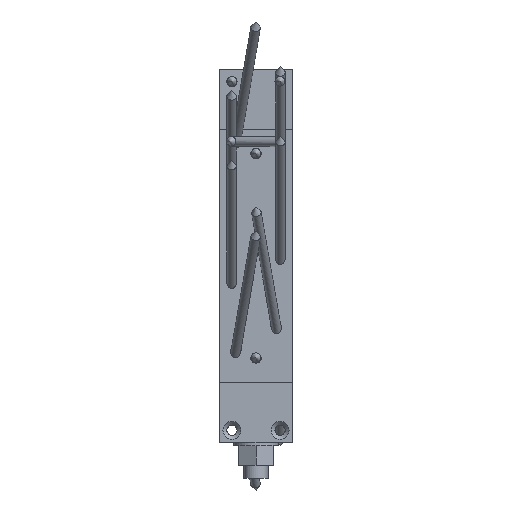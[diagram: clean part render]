
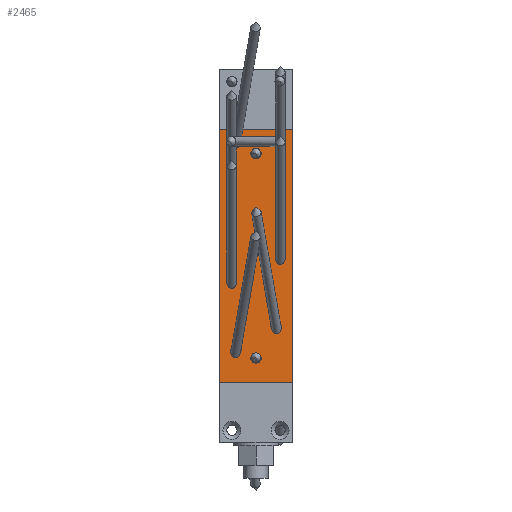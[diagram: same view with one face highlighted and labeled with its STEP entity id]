
A CAD part, top view. The second image highlights one B-rep face of the part: STEP entity #2465.
In plain terms, the highlighted planar face has unit normal (0, 0, 1) as drawn and (0, 0, -1) by its records, which use the part's own axes.
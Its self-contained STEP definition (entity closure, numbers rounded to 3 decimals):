
#232=CIRCLE('',#2915,4.25);
#233=CIRCLE('',#2916,4.25);
#351=LINE('',#4050,#563);
#353=LINE('',#4074,#565);
#354=LINE('',#4076,#566);
#355=LINE('',#4078,#567);
#563=VECTOR('',#3255,1000.);
#565=VECTOR('',#3279,1000.);
#566=VECTOR('',#3280,1000.);
#567=VECTOR('',#3281,1000.);
#801=ORIENTED_EDGE('',*,*,#1393,.F.);
#802=ORIENTED_EDGE('',*,*,#1394,.F.);
#803=ORIENTED_EDGE('',*,*,#1395,.F.);
#804=ORIENTED_EDGE('',*,*,#1396,.F.);
#805=ORIENTED_EDGE('',*,*,#1397,.F.);
#806=ORIENTED_EDGE('',*,*,#1398,.F.);
#807=ORIENTED_EDGE('',*,*,#1399,.F.);
#808=ORIENTED_EDGE('',*,*,#1400,.F.);
#809=ORIENTED_EDGE('',*,*,#1401,.F.);
#810=ORIENTED_EDGE('',*,*,#1402,.F.);
#811=ORIENTED_EDGE('',*,*,#1403,.F.);
#812=ORIENTED_EDGE('',*,*,#1404,.T.);
#813=ORIENTED_EDGE('',*,*,#1405,.T.);
#814=ORIENTED_EDGE('',*,*,#1391,.F.);
#1391=EDGE_CURVE('',#1684,#1685,#351,.T.);
#1393=EDGE_CURVE('',#1686,#1686,#1864,.T.);
#1394=EDGE_CURVE('',#1687,#1687,#1865,.T.);
#1395=EDGE_CURVE('',#1688,#1688,#1866,.T.);
#1396=EDGE_CURVE('',#1689,#1689,#1867,.T.);
#1397=EDGE_CURVE('',#1690,#1690,#1868,.T.);
#1398=EDGE_CURVE('',#1691,#1691,#1869,.T.);
#1399=EDGE_CURVE('',#1692,#1692,#1870,.T.);
#1400=EDGE_CURVE('',#1693,#1693,#1871,.T.);
#1401=EDGE_CURVE('',#1694,#1694,#232,.T.);
#1402=EDGE_CURVE('',#1695,#1695,#233,.T.);
#1403=EDGE_CURVE('',#1696,#1684,#353,.T.);
#1404=EDGE_CURVE('',#1696,#1697,#354,.T.);
#1405=EDGE_CURVE('',#1697,#1685,#355,.T.);
#1684=VERTEX_POINT('',#4049);
#1685=VERTEX_POINT('',#4051);
#1686=VERTEX_POINT('',#4055);
#1687=VERTEX_POINT('',#4057);
#1688=VERTEX_POINT('',#4059);
#1689=VERTEX_POINT('',#4061);
#1690=VERTEX_POINT('',#4063);
#1691=VERTEX_POINT('',#4065);
#1692=VERTEX_POINT('',#4067);
#1693=VERTEX_POINT('',#4069);
#1694=VERTEX_POINT('',#4071);
#1695=VERTEX_POINT('',#4073);
#1696=VERTEX_POINT('',#4075);
#1697=VERTEX_POINT('',#4077);
#1864=ELLIPSE('',#2907,6.103,4.25);
#1865=ELLIPSE('',#2908,6.103,4.25);
#1866=ELLIPSE('',#2909,6.103,4.25);
#1867=ELLIPSE('',#2910,6.01,4.25);
#1868=ELLIPSE('',#2911,6.01,4.25);
#1869=ELLIPSE('',#2912,6.01,4.25);
#1870=ELLIPSE('',#2913,6.01,4.25);
#1871=ELLIPSE('',#2914,4.316,4.25);
#1897=EDGE_LOOP('',(#801));
#1898=EDGE_LOOP('',(#802));
#1899=EDGE_LOOP('',(#803));
#1900=EDGE_LOOP('',(#804));
#1901=EDGE_LOOP('',(#805));
#1902=EDGE_LOOP('',(#806));
#1903=EDGE_LOOP('',(#807));
#1904=EDGE_LOOP('',(#808));
#1905=EDGE_LOOP('',(#809));
#1906=EDGE_LOOP('',(#810));
#1907=EDGE_LOOP('',(#811,#812,#813,#814));
#2141=FACE_BOUND('',#1897,.T.);
#2142=FACE_BOUND('',#1898,.T.);
#2143=FACE_BOUND('',#1899,.T.);
#2144=FACE_BOUND('',#1900,.T.);
#2145=FACE_BOUND('',#1901,.T.);
#2146=FACE_BOUND('',#1902,.T.);
#2147=FACE_BOUND('',#1903,.T.);
#2148=FACE_BOUND('',#1904,.T.);
#2149=FACE_BOUND('',#1905,.T.);
#2150=FACE_BOUND('',#1906,.T.);
#2151=FACE_BOUND('',#1907,.T.);
#2375=PLANE('',#2906);
#2465=ADVANCED_FACE('',(#2141,#2142,#2143,#2144,#2145,#2146,#2147,#2148,
#2149,#2150,#2151),#2375,.T.);
#2906=AXIS2_PLACEMENT_3D('',#4053,#3257,#3258);
#2907=AXIS2_PLACEMENT_3D('',#4054,#3259,#3260);
#2908=AXIS2_PLACEMENT_3D('',#4056,#3261,#3262);
#2909=AXIS2_PLACEMENT_3D('',#4058,#3263,#3264);
#2910=AXIS2_PLACEMENT_3D('',#4060,#3265,#3266);
#2911=AXIS2_PLACEMENT_3D('',#4062,#3267,#3268);
#2912=AXIS2_PLACEMENT_3D('',#4064,#3269,#3270);
#2913=AXIS2_PLACEMENT_3D('',#4066,#3271,#3272);
#2914=AXIS2_PLACEMENT_3D('',#4068,#3273,#3274);
#2915=AXIS2_PLACEMENT_3D('',#4070,#3275,#3276);
#2916=AXIS2_PLACEMENT_3D('',#4072,#3277,#3278);
#3255=DIRECTION('',(0.,-1.,0.));
#3257=DIRECTION('',(0.,0.,-1.));
#3258=DIRECTION('',(-1.,0.,0.));
#3259=DIRECTION('',(0.,0.,-1.));
#3260=DIRECTION('',(-0.171,0.985,0.));
#3261=DIRECTION('',(0.,0.,-1.));
#3262=DIRECTION('',(-0.171,0.985,0.));
#3263=DIRECTION('',(0.,0.,-1.));
#3264=DIRECTION('',(0.171,0.985,0.));
#3265=DIRECTION('',(0.,0.,-1.));
#3266=DIRECTION('',(0.,1.,0.));
#3267=DIRECTION('',(0.,0.,-1.));
#3268=DIRECTION('',(0.,1.,0.));
#3269=DIRECTION('',(0.,0.,-1.));
#3270=DIRECTION('',(0.,1.,0.));
#3271=DIRECTION('',(0.,0.,-1.));
#3272=DIRECTION('',(0.,1.,0.));
#3273=DIRECTION('',(0.,0.,-1.));
#3274=DIRECTION('',(1.,0.,0.));
#3275=DIRECTION('',(0.,0.,-1.));
#3276=DIRECTION('',(-1.,0.,0.));
#3277=DIRECTION('',(0.,0.,-1.));
#3278=DIRECTION('',(-1.,0.,0.));
#3279=DIRECTION('',(-1.,0.,0.));
#3280=DIRECTION('',(0.,-1.,0.));
#3281=DIRECTION('',(-1.,0.,0.));
#4049=CARTESIAN_POINT('',(0.,230.,0.));
#4050=CARTESIAN_POINT('',(0.,250.,0.));
#4051=CARTESIAN_POINT('',(0.,20.,0.));
#4053=CARTESIAN_POINT('',(0.,250.,0.));
#4054=CARTESIAN_POINT('',(13.277,29.693,0.));
#4055=CARTESIAN_POINT('',(12.232,35.707,0.));
#4056=CARTESIAN_POINT('',(13.277,203.691,0.));
#4057=CARTESIAN_POINT('',(12.232,209.704,0.));
#4058=CARTESIAN_POINT('',(46.723,183.694,0.));
#4059=CARTESIAN_POINT('',(47.768,189.707,0.));
#4060=CARTESIAN_POINT('',(9.75,146.,0.));
#4061=CARTESIAN_POINT('',(9.75,152.01,0.));
#4062=CARTESIAN_POINT('',(50.25,126.,0.));
#4063=CARTESIAN_POINT('',(50.25,132.01,0.));
#4064=CARTESIAN_POINT('',(50.25,68.,0.));
#4065=CARTESIAN_POINT('',(50.25,74.01,0.));
#4066=CARTESIAN_POINT('',(9.75,88.,0.));
#4067=CARTESIAN_POINT('',(9.75,94.01,0.));
#4068=CARTESIAN_POINT('',(46.723,30.,0.));
#4069=CARTESIAN_POINT('',(51.039,30.,0.));
#4070=CARTESIAN_POINT('',(30.,210.,0.));
#4071=CARTESIAN_POINT('',(25.75,210.,0.));
#4072=CARTESIAN_POINT('',(30.,40.,0.));
#4073=CARTESIAN_POINT('',(25.75,40.,0.));
#4074=CARTESIAN_POINT('',(100.,230.,0.));
#4075=CARTESIAN_POINT('',(60.,230.,0.));
#4076=CARTESIAN_POINT('',(60.,250.,0.));
#4077=CARTESIAN_POINT('',(60.,20.,0.));
#4078=CARTESIAN_POINT('',(357.205,20.,0.));
